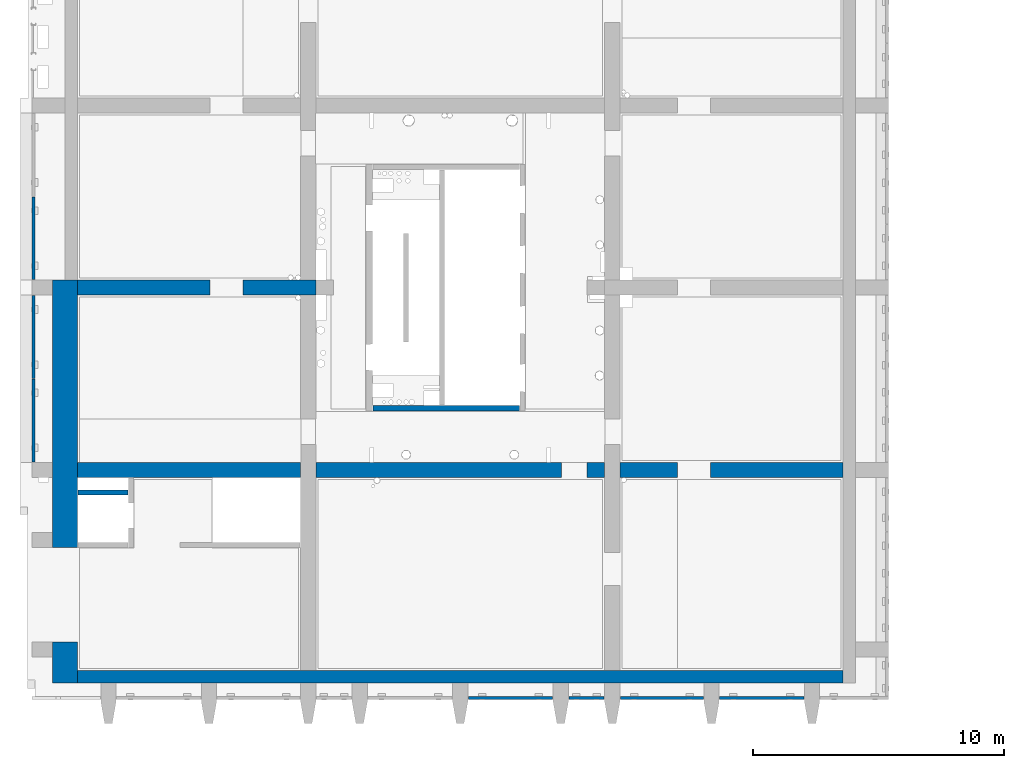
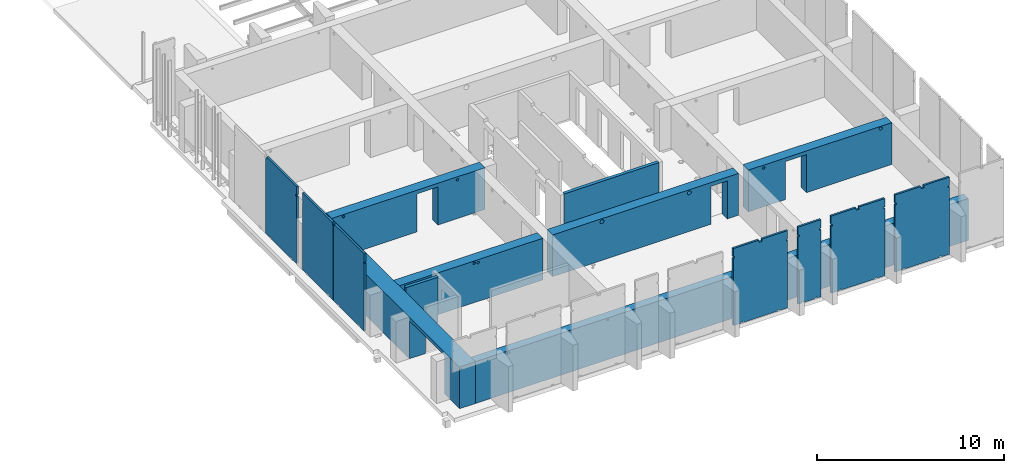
# One storey, part 26 of 31: 13 walls, 50 openings.
"""IFC2X3 building model written with IfcOpenShell, lengths in millimetres."""

from ifc_helpers import new_model, entity, si_unit, converted_unit, derived_unit, direction, frame, frame_2d, origin, origin_2d_with_axis, place, context, subcontext, project, spatial, rectangle, circle, extrude, material, layer, layer_set, layer_usage, type_object, element, save


model = new_model("IFC2X3")

# Units and contexts
model_context = context("Model", 3, precision=0.01, world=origin(), true_north=direction((6.12303176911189e-17, 1.0)))
body_context = subcontext(model_context, "Body", "Model", "MODEL_VIEW")
ifc_project = project(units=[si_unit("LENGTHUNIT", "METRE", prefix="MILLI"), si_unit("AREAUNIT", "SQUARE_METRE"), si_unit("VOLUMEUNIT", "CUBIC_METRE"), converted_unit("PLANEANGLEUNIT", "DEGREE", entity("IfcRatioMeasure", 0.0174532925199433), si_unit("PLANEANGLEUNIT", "RADIAN"), dimensions=[0, 0, 0, 0, 0, 0, 0]), si_unit("MASSUNIT", "GRAM", prefix="KILO"), derived_unit("MASSDENSITYUNIT", [(si_unit("MASSUNIT", "GRAM", prefix="KILO"), 1), (si_unit("LENGTHUNIT", "METRE"), -3)]), si_unit("TIMEUNIT", "SECOND"), si_unit("FREQUENCYUNIT", "HERTZ"), si_unit("THERMODYNAMICTEMPERATUREUNIT", "DEGREE_CELSIUS"), derived_unit("THERMALTRANSMITTANCEUNIT", [(si_unit("MASSUNIT", "GRAM", prefix="KILO"), 1), (si_unit("THERMODYNAMICTEMPERATUREUNIT", "KELVIN"), -1), (si_unit("TIMEUNIT", "SECOND"), -3)]), derived_unit("VOLUMETRICFLOWRATEUNIT", [(si_unit("LENGTHUNIT", "METRE"), 3), (si_unit("TIMEUNIT", "SECOND"), -1)]), si_unit("ELECTRICCURRENTUNIT", "AMPERE"), si_unit("ELECTRICVOLTAGEUNIT", "VOLT"), si_unit("POWERUNIT", "WATT"), si_unit("FORCEUNIT", "NEWTON", prefix="KILO"), si_unit("ILLUMINANCEUNIT", "LUX"), si_unit("LUMINOUSFLUXUNIT", "LUMEN"), si_unit("LUMINOUSINTENSITYUNIT", "CANDELA"), derived_unit("USERDEFINED", [(si_unit("MASSUNIT", "GRAM", prefix="KILO"), -1), (si_unit("LENGTHUNIT", "METRE"), -2), (si_unit("TIMEUNIT", "SECOND"), 3), (si_unit("LUMINOUSFLUXUNIT", "LUMEN"), 1)]), derived_unit("LINEARVELOCITYUNIT", [(si_unit("LENGTHUNIT", "METRE"), 1), (si_unit("TIMEUNIT", "SECOND"), -1)]), si_unit("PRESSUREUNIT", "PASCAL"), derived_unit("USERDEFINED", [(si_unit("LENGTHUNIT", "METRE"), -2), (si_unit("MASSUNIT", "GRAM", prefix="KILO"), 1), (si_unit("TIMEUNIT", "SECOND"), -2)])], contexts=[model_context])

# Site, building, storey
site_placement = place(None, origin())
site = spatial("IfcSite", under=ifc_project, at=site_placement, Name="Default", CompositionType="ELEMENT")
building_placement = place(site_placement, origin())
building = spatial("IfcBuilding", under=site, at=building_placement, Name="niet gebruiken", CompositionType="ELEMENT")
storey_placement = place(building_placement, frame((0.0, 0.0, 12000.0)))
storey = spatial("IfcBuildingStorey", under=building, at=storey_placement, Name="03 derde verdieping", CompositionType="ELEMENT", Elevation=12000.0)

# Wall, openings
ifc_material_1 = material(Name="NLRS_f2_beton ihwg")
ifc_layer_1 = layer(ifc_material_1, 600.0)
ifc_layer_set_1 = layer_set([ifc_layer_1], Name="Basic Wall:NLRS_22.21_WA_beton ihwg d=600_gen")
ifc_layer_usage_1 = layer_usage(ifc_layer_set_1, "AXIS2", "NEGATIVE", 300.0)
wall_type_1 = type_object("IfcWallType", Name="Basic Wall:NLRS_22.21_WA_beton ihwg d=600_gen", PredefinedType="STANDARD", material=ifc_layer_set_1)
wall_1_placement = place(storey_placement, frame((126520.0, 17500.0, -90.0)))
wall_1 = element("IfcWallStandardCase", 1, at=wall_1_placement, inside=storey, type_object=wall_type_1, material=ifc_layer_usage_1, Name="Basic Wall:NLRS_22.21_WA_beton ihwg d=600_gen", ObjectType="Basic Wall:NLRS_22.21_WA_beton ihwg d=600_gen", context=body_context, shape_type="SweptSolid", body=[
    extrude(rectangle(XDim=9479.99999999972, YDim=599.999999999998, at=frame_2d((4739.99999999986, -2.27373675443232e-13), x_axis=(-1.0, 0.0))), origin(), (0.0, 0.0, 1.0), 2729.99999999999),
])
opening_1_placement = place(wall_1_placement, origin())
element("IfcOpeningElement", 2, at=opening_1_placement, cuts=wall_1, Name="Basic Wall:NLRS_22.21_WA_beton ihwg d=600_gen", ObjectType="Opening", context=body_context, shape_type="SweptSolid", body=[
    extrude(rectangle(XDim=2490.0, YDim=1300.00000000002, at=frame_2d((0.0, -1.73372427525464e-11), x_axis=(1.0, 0.0))), frame((5930.0, -300.0, 1245.0), z_axis=(0.0, 1.0, 0.0), x_axis=(0.0, 0.0, -1.0)), (0.0, 0.0, 1.0), 600.000000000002),
])
opening_2_placement = place(wall_1_placement, origin())
element("IfcOpeningElement", 3, at=opening_2_placement, cuts=wall_1, Name="Basic Wall:NLRS_22.21_WA_beton ihwg d=600_gen", ObjectType="Opening", context=body_context, shape_type="SweptSolid", body=[
    extrude(circle(Radius=80.0, at=origin_2d_with_axis()), frame((7780.0, -300.0, 2540.0), z_axis=(0.0, 1.0, 0.0), x_axis=(1.0, 0.0, 0.0)), (0.0, 0.0, 1.0), 600.0),
])
opening_3_placement = place(wall_1_placement, origin())
element("IfcOpeningElement", 4, at=opening_3_placement, cuts=wall_1, Name="Basic Wall:NLRS_22.21_WA_beton ihwg d=600_gen", ObjectType="Opening", context=body_context, shape_type="SweptSolid", body=[
    extrude(circle(Radius=80.0, at=origin_2d_with_axis()), frame((735.0, -300.0, 2590.0), z_axis=(0.0, 1.0, 0.0), x_axis=(1.0, 0.0, 0.0)), (0.0, 0.0, 1.0), 600.0),
])

ifc_layer_usage_2 = layer_usage(ifc_layer_set_1, "AXIS2", "NEGATIVE", 300.0)
wall_2_placement = place(storey_placement, frame((126520.0, 10250.0, -90.0)))
wall_2 = element("IfcWallStandardCase", 5, at=wall_2_placement, inside=storey, type_object=wall_type_1, material=ifc_layer_usage_2, Name="Basic Wall:NLRS_22.21_WA_beton ihwg d=600_gen", ObjectType="Basic Wall:NLRS_22.21_WA_beton ihwg d=600_gen", context=body_context, shape_type="SweptSolid", body=[
    extrude(rectangle(XDim=30459.9999999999, YDim=600.000000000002, at=frame_2d((15230.0, 5.40012479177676e-13), x_axis=(-1.0, 0.0))), origin(), (0.0, 0.0, 1.0), 2729.99999999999),
])
opening_4_placement = place(storey_placement, frame((126520.0, 10250.0, -90.0)))
element("IfcOpeningElement", 6, at=opening_4_placement, cuts=wall_2, Name="Basic Wall:NLRS_22.21_WA_beton ihwg d=600_gen:1", ObjectType="Opening", context=body_context, shape_type="SweptSolid", body=[
    extrude(rectangle(XDim=2730.0, YDim=600.0, at=frame_2d((1.02318153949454e-12, 1.08002495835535e-12), x_axis=(1.0, 0.0))), frame((8880.0, 0.0, 1365.0), z_axis=(1.0, 0.0, 0.0), x_axis=(0.0, 0.0, -1.0)), (0.0, 0.0, 1.0), 600.000000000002),
])
opening_5_placement = place(storey_placement, frame((126520.0, 10250.0, -90.0)))
element("IfcOpeningElement", 7, at=opening_5_placement, cuts=wall_2, Name="Basic Wall:NLRS_22.21_WA_beton ihwg d=600_gen:2", ObjectType="Opening", context=body_context, shape_type="SweptSolid", body=[
    extrude(rectangle(XDim=2730.0, YDim=600.0, at=frame_2d((1.02318153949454e-12, -1.08002495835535e-12), x_axis=(1.0, 0.0))), frame((20980.0, 0.0, 1365.0), z_axis=(1.0, 0.0, 0.0), x_axis=(0.0, 0.0, -1.0)), (0.0, 0.0, 1.0), 600.000000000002),
])
opening_6_placement = place(wall_2_placement, origin())
element("IfcOpeningElement", 8, at=opening_6_placement, cuts=wall_2, Name="Basic Wall:NLRS_22.21_WA_beton ihwg d=600_gen", ObjectType="Opening", context=body_context, shape_type="SweptSolid", body=[
    extrude(rectangle(XDim=2490.0, YDim=1300.0, at=frame_2d((8.69704308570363e-12, 0.0), x_axis=(0.0, 1.0))), frame((24530.0, -300.0, 1245.0), z_axis=(0.0, 1.0, 0.0), x_axis=(1.0, 0.0, 0.0)), (0.0, 0.0, 1.0), 600.000000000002),
])
opening_7_placement = place(wall_2_placement, origin())
element("IfcOpeningElement", 9, at=opening_7_placement, cuts=wall_2, Name="Basic Wall:NLRS_22.21_WA_beton ihwg d=600_gen", ObjectType="Opening", context=body_context, shape_type="SweptSolid", body=[
    extrude(rectangle(XDim=2475.0, YDim=1015.99999999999, at=frame_2d((8.66862137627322e-12, 0.0), x_axis=(0.0, 1.0))), frame((19772.0, -300.0, 1237.5), z_axis=(0.0, 1.0, 0.0), x_axis=(1.0, 0.0, 0.0)), (0.0, 0.0, 1.0), 599.999999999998),
])
opening_8_placement = place(wall_2_placement, origin())
element("IfcOpeningElement", 10, at=opening_8_placement, cuts=wall_2, Name="Basic Wall:NLRS_22.21_WA_beton ihwg d=600_gen", ObjectType="Opening", context=body_context, shape_type="SweptSolid", body=[
    extrude(circle(Radius=80.0, at=origin_2d_with_axis()), frame((4630.0, -300.0, 2590.0), z_axis=(0.0, 1.0, 0.0), x_axis=(-1.0, 0.0, 0.0)), (0.0, 0.0, 1.0), 600.0),
])
opening_9_placement = place(wall_2_placement, origin())
element("IfcOpeningElement", 11, at=opening_9_placement, cuts=wall_2, Name="Basic Wall:NLRS_22.21_WA_beton ihwg d=600_gen", ObjectType="Opening", context=body_context, shape_type="SweptSolid", body=[
    extrude(circle(Radius=80.0, at=origin_2d_with_axis()), frame((4880.0, -300.0, 2540.0), z_axis=(0.0, 1.0, 0.0), x_axis=(-1.0, 0.0, 0.0)), (0.0, 0.0, 1.0), 600.0),
])
opening_10_placement = place(wall_2_placement, origin())
element("IfcOpeningElement", 12, at=opening_10_placement, cuts=wall_2, Name="Basic Wall:NLRS_22.21_WA_beton ihwg d=600_gen", ObjectType="Opening", context=body_context, shape_type="SweptSolid", body=[
    extrude(circle(Radius=125.0, at=origin_2d_with_axis()), frame((17929.9996159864, -300.0, 2529.99951249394), z_axis=(0.0, 1.0, 0.0), x_axis=(-1.0, 0.0, 0.0)), (0.0, 0.0, 1.0), 600.0),
])
opening_11_placement = place(wall_2_placement, origin())
element("IfcOpeningElement", 13, at=opening_11_placement, cuts=wall_2, Name="Basic Wall:NLRS_22.21_WA_beton ihwg d=600_gen", ObjectType="Opening", context=body_context, shape_type="SweptSolid", body=[
    extrude(circle(Radius=125.0, at=origin_2d_with_axis()), frame((12529.9996159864, -300.0, 2529.99951249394), z_axis=(0.0, 1.0, 0.0), x_axis=(-1.0, 0.0, 0.0)), (0.0, 0.0, 1.0), 600.0),
])
opening_12_placement = place(wall_2_placement, origin())
element("IfcOpeningElement", 14, at=opening_12_placement, cuts=wall_2, Name="Basic Wall:NLRS_22.21_WA_beton ihwg d=600_gen", ObjectType="Opening", context=body_context, shape_type="SweptSolid", body=[
    extrude(circle(Radius=80.0, at=origin_2d_with_axis()), frame((22530.0, -300.0, 2540.0), z_axis=(0.0, 1.0, 0.0), x_axis=(-1.0, 0.0, 0.0)), (0.0, 0.0, 1.0), 600.0),
])
opening_13_placement = place(wall_2_placement, origin())
element("IfcOpeningElement", 15, at=opening_13_placement, cuts=wall_2, Name="Basic Wall:NLRS_22.21_WA_beton ihwg d=600_gen", ObjectType="Opening", context=body_context, shape_type="SweptSolid", body=[
    extrude(circle(Radius=100.0, at=origin_2d_with_axis()), frame((29760.0, -300.0, 2590.0), z_axis=(0.0, 1.0, 0.0), x_axis=(-1.0, 0.0, 0.0)), (0.0, 0.0, 1.0), 600.0),
])

# Walls
ifc_material_2 = material(Name="NLRS_f2_beton prefab")
ifc_layer_2 = layer(ifc_material_2, 200.0)
ifc_layer_set_2 = layer_set([ifc_layer_2], Name="Basic Wall:NLRS_22.21_WA_beton prefab d=200_gen")
ifc_layer_usage_3 = layer_usage(ifc_layer_set_2, "AXIS2", "NEGATIVE", 100.0)
wall_type_2 = type_object("IfcWallType", Name="Basic Wall:NLRS_22.21_WA_beton prefab d=200_gen", PredefinedType="STANDARD", material=ifc_layer_set_2)
wall_3_placement = place(storey_placement, frame((138270.0, 12700.0, -50.0)))
element("IfcWallStandardCase", 16, at=wall_3_placement, inside=storey, type_object=wall_type_2, material=ifc_layer_usage_3, Name="Basic Wall:NLRS_22.21_WA_beton prefab d=200_gen", ObjectType="Basic Wall:NLRS_22.21_WA_beton prefab d=200_gen", context=body_context, shape_type="SweptSolid", body=[
    extrude(rectangle(XDim=5840.00000000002, YDim=199.999999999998, at=frame_2d((2920.00000000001, -6.82121026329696e-13), x_axis=(-1.0, 0.0))), origin(), (0.0, 0.0, 1.0), 2980.0),
])
ifc_layer_usage_4 = layer_usage(ifc_layer_set_2, "AXIS2", "NEGATIVE", 100.0)
wall_4_placement = place(storey_placement, frame((126540.0, 9350.0, -50.0)))
element("IfcWallStandardCase", 17, at=wall_4_placement, inside=storey, type_object=wall_type_2, material=ifc_layer_usage_4, Name="Basic Wall:NLRS_22.21_WA_beton prefab d=200_gen", ObjectType="Basic Wall:NLRS_22.21_WA_beton prefab d=200_gen", context=body_context, shape_type="SweptSolid", body=[
    extrude(rectangle(XDim=1980.0, YDim=200.0, at=frame_2d((990.0, -2.98427949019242e-13), x_axis=(-1.0, 0.0))), origin(), (0.0, 0.0, 1.0), 2980.0),
])

# Wall, openings
ifc_layer_3 = layer(ifc_material_1, 500.0)
ifc_layer_set_3 = layer_set([ifc_layer_3], Name="Basic Wall:NLRS_21.21_WA_beton ihwg d=500_gen")
ifc_layer_usage_5 = layer_usage(ifc_layer_set_3, "AXIS2", "NEGATIVE", 250.0)
wall_type_3 = type_object("IfcWallType", Name="Basic Wall:NLRS_21.21_WA_beton ihwg d=500_gen", PredefinedType="STANDARD", material=ifc_layer_set_3)
wall_5_placement = place(storey_placement, frame((156980.0, 2020.0, -90.0), z_axis=(0.0, 0.0, 1.0), x_axis=(-1.0, 0.0, 0.0)))
wall_5 = element("IfcWallStandardCase", 18, at=wall_5_placement, inside=storey, type_object=wall_type_3, material=ifc_layer_usage_5, Name="Basic Wall:NLRS_21.21_WA_beton ihwg d=500_gen", ObjectType="Basic Wall:NLRS_21.21_WA_beton ihwg d=500_gen", context=body_context, shape_type="SweptSolid", body=[
    extrude(rectangle(XDim=30460.0, YDim=500.0, at=frame_2d((15230.0, 1.4210854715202e-14), x_axis=(-1.0, 0.0))), origin(), (0.0, 0.0, 1.0), 2729.99999999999),
])
opening_14_placement = place(wall_5_placement, origin())
element("IfcOpeningElement", 19, at=opening_14_placement, cuts=wall_5, Name="Basic Wall:NLRS_21.21_WA_beton ihwg d=500_gen", ObjectType="Opening", context=body_context, shape_type="SweptSolid", body=[
    extrude(circle(Radius=80.0, at=origin_2d_with_axis()), frame((28415.0, -350.0, 2590.0), z_axis=(0.0, 1.0, 0.0), x_axis=(-1.0, 0.0, 0.0)), (0.0, 0.0, 1.0), 600.0),
])
opening_15_placement = place(wall_5_placement, origin())
element("IfcOpeningElement", 20, at=opening_15_placement, cuts=wall_5, Name="Basic Wall:NLRS_21.21_WA_beton ihwg d=500_gen", ObjectType="Opening", context=body_context, shape_type="SweptSolid", body=[
    extrude(circle(Radius=55.0, at=origin_2d_with_axis()), frame((22285.0, -350.0, 2615.0), z_axis=(0.0, 1.0, 0.0), x_axis=(-1.0, 0.0, 0.0)), (0.0, 0.0, 1.0), 600.0),
])
opening_16_placement = place(wall_5_placement, origin())
element("IfcOpeningElement", 21, at=opening_16_placement, cuts=wall_5, Name="Basic Wall:NLRS_21.21_WA_beton ihwg d=500_gen", ObjectType="Opening", context=body_context, shape_type="SweptSolid", body=[
    extrude(circle(Radius=55.0, at=origin_2d_with_axis()), frame((7830.0, -350.0, 2615.0), z_axis=(0.0, 1.0, 0.0), x_axis=(-1.0, 0.0, 0.0)), (0.0, 0.0, 1.0), 600.0),
])
opening_17_placement = place(wall_5_placement, origin())
element("IfcOpeningElement", 22, at=opening_17_placement, cuts=wall_5, Name="Basic Wall:NLRS_21.21_WA_beton ihwg d=500_gen", ObjectType="Opening", context=body_context, shape_type="SweptSolid", body=[
    extrude(circle(Radius=80.0, at=origin_2d_with_axis()), frame((2110.0, -350.0, 2590.0), z_axis=(0.0, 1.0, 0.0), x_axis=(-1.0, 0.0, 0.0)), (0.0, 0.0, 1.0), 600.0),
])

ifc_layer_4 = layer(ifc_material_1, 1000.0)
ifc_layer_set_4 = layer_set([ifc_layer_4], Name="Basic Wall:NLRS_21.21_WA_beton ihwg d=1000_gen")
ifc_layer_usage_6 = layer_usage(ifc_layer_set_4, "AXIS2", "NEGATIVE", 500.0)
wall_type_4 = type_object("IfcWallType", Name="Basic Wall:NLRS_21.21_WA_beton ihwg d=1000_gen", PredefinedType="STANDARD", material=ifc_layer_set_4)
wall_6_placement = place(storey_placement, frame((126020.0, 1770.0, -90.0), z_axis=(0.0, 0.0, 1.0), x_axis=(0.0, 1.0, 0.0)))
wall_6 = element("IfcWallStandardCase", 23, at=wall_6_placement, inside=storey, type_object=wall_type_4, material=ifc_layer_usage_6, Name="Basic Wall:NLRS_21.21_WA_beton ihwg d=1000_gen", ObjectType="Basic Wall:NLRS_21.21_WA_beton ihwg d=1000_gen", context=body_context, shape_type="SweptSolid", body=[
    extrude(rectangle(XDim=16030.0000000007, YDim=1000.00000000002, at=frame_2d((8015.00000000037, 4.57589521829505e-12), x_axis=(-1.0, 0.0))), origin(), (0.0, 0.0, 1.0), 2729.99999999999),
])
opening_18_placement = place(wall_6_placement, origin())
element("IfcOpeningElement", 24, at=opening_18_placement, cuts=wall_6, Name="Basic Wall:NLRS_21.21_WA_beton ihwg d=1000_gen", ObjectType="Opening", context=body_context, shape_type="SweptSolid", body=[
    extrude(rectangle(XDim=2490.0, YDim=3750.0, at=frame_2d((3.41060513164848e-13, -2.27373675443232e-12), x_axis=(0.0, 1.0))), frame((3505.0, -500.0, 1245.0), z_axis=(0.0, 1.0, 0.0), x_axis=(1.0, 0.0, 0.0)), (0.0, 0.0, 1.0), 1000.00000000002),
])
opening_19_placement = place(wall_6_placement, origin())
element("IfcOpeningElement", 25, at=opening_19_placement, cuts=wall_6, Name="Basic Wall:NLRS_21.21_WA_beton ihwg d=1000_gen", ObjectType="Recess", context=body_context, shape_type="SweptSolid", body=[
    extrude(circle(Radius=55.0, at=origin_2d_with_axis()), frame((9155.0, -500.0, 2590.0), z_axis=(0.0, 1.0, 0.0), x_axis=(1.0, 0.0, 0.0)), (0.0, 0.0, 1.0), 600.000000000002),
])

ifc_layer_5 = layer(ifc_material_2, 120.0)
ifc_layer_set_5 = layer_set([ifc_layer_5], Name="Basic Wall:NLRS_21.21_WA_beton prefab d=120_gen")
ifc_layer_usage_7 = layer_usage(ifc_layer_set_5, "AXIS2", "NEGATIVE", 60.0)
wall_type_5 = type_object("IfcWallType", Name="Basic Wall:NLRS_21.21_WA_beton prefab d=120_gen", PredefinedType="STANDARD", material=ifc_layer_set_5)
wall_7_placement = place(storey_placement, frame((145430.0, 1174.0, -60.0), z_axis=(0.0, 0.0, 1.0), x_axis=(-1.0, 0.0, 0.0)))
wall_7 = element("IfcWallStandardCase", 26, at=wall_7_placement, inside=storey, type_object=wall_type_5, material=ifc_layer_usage_7, Name="Basic Wall:NLRS_21.21_WA_beton prefab d=120_gen", ObjectType="Basic Wall:NLRS_21.21_WA_beton prefab d=120_gen", context=body_context, shape_type="SweptSolid", body=[
    extrude(rectangle(XDim=3360.0, YDim=120.0, at=frame_2d((1680.0, -4.61852778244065e-14), x_axis=(-1.0, 0.0))), origin(), (0.0, 0.0, 1.0), 5045.00000000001),
])
opening_20_placement = place(wall_7_placement, origin())
element("IfcOpeningElement", 27, at=opening_20_placement, cuts=wall_7, Name="Basic Wall:NLRS_21.21_WA_beton prefab d=120_gen", ObjectType="Opening", context=body_context, shape_type="SweptSolid", body=[
    extrude(rectangle(XDim=150.000000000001, YDim=190.000000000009, at=origin_2d_with_axis()), frame((1680.0, -79.0, 4970.0), z_axis=(0.0, 1.0, 0.0), x_axis=(0.0, 0.0, -1.0)), (0.0, 0.0, 1.0), 158.000000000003),
])
opening_21_placement = place(wall_7_placement, origin())
element("IfcOpeningElement", 28, at=opening_21_placement, cuts=wall_7, Name="Basic Wall:NLRS_21.21_WA_beton prefab d=120_gen", ObjectType="Opening", context=body_context, shape_type="SweptSolid", body=[
    extrude(rectangle(XDim=99.9999999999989, YDim=79.9999999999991, at=frame_2d((-2.16715534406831e-12, 0.0), x_axis=(1.0, 0.0))), frame((3320.0, -75.0, 4445.0), z_axis=(0.0, 1.0, 0.0), x_axis=(0.0, 0.0, -1.0)), (0.0, 0.0, 1.0), 150.000000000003),
])
opening_22_placement = place(wall_7_placement, origin())
element("IfcOpeningElement", 29, at=opening_22_placement, cuts=wall_7, Name="Basic Wall:NLRS_21.21_WA_beton prefab d=120_gen", ObjectType="Opening", context=body_context, shape_type="SweptSolid", body=[
    extrude(rectangle(XDim=99.9999999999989, YDim=80.0000000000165, at=frame_2d((-8.66506866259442e-12, 0.0), x_axis=(0.0, 1.0))), frame((40.0, -75.0, 4445.0), z_axis=(0.0, 1.0, 0.0), x_axis=(1.0, 0.0, 0.0)), (0.0, 0.0, 1.0), 150.000000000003),
])
opening_23_placement = place(wall_7_placement, origin())
element("IfcOpeningElement", 30, at=opening_23_placement, cuts=wall_7, Name="Basic Wall:NLRS_21.21_WA_beton prefab d=120_gen", ObjectType="Opening", context=body_context, shape_type="SweptSolid", body=[
    extrude(rectangle(XDim=79.9999999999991, YDim=100.000000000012, at=frame_2d((8.66506866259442e-12, 0.0), x_axis=(0.0, 1.0))), frame((2810.0, -75.0, 40.0), z_axis=(0.0, 1.0, 0.0), x_axis=(1.0, 0.0, 0.0)), (0.0, 0.0, 1.0), 150.000000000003),
])
opening_24_placement = place(wall_7_placement, origin())
element("IfcOpeningElement", 31, at=opening_24_placement, cuts=wall_7, Name="Basic Wall:NLRS_21.21_WA_beton prefab d=120_gen", ObjectType="Opening", context=body_context, shape_type="SweptSolid", body=[
    extrude(rectangle(XDim=79.9999999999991, YDim=99.9999999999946, at=origin_2d_with_axis()), frame((550.0, -75.0, 40.0), z_axis=(0.0, 1.0, 0.0), x_axis=(0.0, 0.0, -1.0)), (0.0, 0.0, 1.0), 150.000000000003),
])

ifc_layer_usage_8 = layer_usage(ifc_layer_set_5, "AXIS2", "NEGATIVE", 60.0)
wall_8_placement = place(storey_placement, frame((155430.0, 1174.0, -60.0), z_axis=(0.0, 0.0, 1.0), x_axis=(-1.0, 0.0, 0.0)))
wall_8 = element("IfcWallStandardCase", 32, at=wall_8_placement, inside=storey, type_object=wall_type_5, material=ifc_layer_usage_8, Name="Basic Wall:NLRS_21.21_WA_beton prefab d=120_gen", ObjectType="Basic Wall:NLRS_21.21_WA_beton prefab d=120_gen", context=body_context, shape_type="SweptSolid", body=[
    extrude(rectangle(XDim=3360.0, YDim=120.0, at=frame_2d((1680.0, -4.61852778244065e-14), x_axis=(-1.0, 0.0))), origin(), (0.0, 0.0, 1.0), 5045.00000000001),
])
opening_25_placement = place(wall_8_placement, origin())
element("IfcOpeningElement", 33, at=opening_25_placement, cuts=wall_8, Name="Basic Wall:NLRS_21.21_WA_beton prefab d=120_gen", ObjectType="Opening", context=body_context, shape_type="SweptSolid", body=[
    extrude(rectangle(XDim=150.000000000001, YDim=190.000000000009, at=frame_2d((0.0, -1.73301373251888e-11), x_axis=(1.0, 0.0))), frame((1680.0, -79.0, 4970.0), z_axis=(0.0, 1.0, 0.0), x_axis=(0.0, 0.0, -1.0)), (0.0, 0.0, 1.0), 158.000000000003),
])
opening_26_placement = place(wall_8_placement, origin())
element("IfcOpeningElement", 34, at=opening_26_placement, cuts=wall_8, Name="Basic Wall:NLRS_21.21_WA_beton prefab d=120_gen", ObjectType="Opening", context=body_context, shape_type="SweptSolid", body=[
    extrude(rectangle(XDim=99.9999999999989, YDim=79.9999999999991, at=frame_2d((-2.16715534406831e-12, 0.0), x_axis=(1.0, 0.0))), frame((3320.0, -75.0, 4445.0), z_axis=(0.0, 1.0, 0.0), x_axis=(0.0, 0.0, -1.0)), (0.0, 0.0, 1.0), 150.000000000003),
])
opening_27_placement = place(wall_8_placement, origin())
element("IfcOpeningElement", 35, at=opening_27_placement, cuts=wall_8, Name="Basic Wall:NLRS_21.21_WA_beton prefab d=120_gen", ObjectType="Opening", context=body_context, shape_type="SweptSolid", body=[
    extrude(rectangle(XDim=99.9999999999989, YDim=80.0000000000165, at=frame_2d((8.66506866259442e-12, 0.0), x_axis=(0.0, 1.0))), frame((40.0, -75.0, 4445.0), z_axis=(0.0, 1.0, 0.0), x_axis=(1.0, 0.0, 0.0)), (0.0, 0.0, 1.0), 150.000000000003),
])
opening_28_placement = place(wall_8_placement, origin())
element("IfcOpeningElement", 36, at=opening_28_placement, cuts=wall_8, Name="Basic Wall:NLRS_21.21_WA_beton prefab d=120_gen", ObjectType="Opening", context=body_context, shape_type="SweptSolid", body=[
    extrude(rectangle(XDim=79.9999999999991, YDim=100.000000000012, at=frame_2d((8.66506866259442e-12, 0.0), x_axis=(0.0, 1.0))), frame((2810.0, -75.0, 40.0), z_axis=(0.0, 1.0, 0.0), x_axis=(1.0, 0.0, 0.0)), (0.0, 0.0, 1.0), 150.000000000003),
])
opening_29_placement = place(wall_8_placement, origin())
element("IfcOpeningElement", 37, at=opening_29_placement, cuts=wall_8, Name="Basic Wall:NLRS_21.21_WA_beton prefab d=120_gen", ObjectType="Opening", context=body_context, shape_type="SweptSolid", body=[
    extrude(rectangle(XDim=79.9999999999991, YDim=99.9999999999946, at=origin_2d_with_axis()), frame((550.0, -75.0, 40.0), z_axis=(0.0, 1.0, 0.0), x_axis=(0.0, 0.0, -1.0)), (0.0, 0.0, 1.0), 150.000000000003),
])

ifc_layer_usage_9 = layer_usage(ifc_layer_set_5, "AXIS2", "NEGATIVE", 60.0)
wall_9_placement = place(storey_placement, frame((147480.0, 1174.0, -60.0), z_axis=(0.0, 0.0, 1.0), x_axis=(-1.0, 0.0, 0.0)))
wall_9 = element("IfcWallStandardCase", 38, at=wall_9_placement, inside=storey, type_object=wall_type_5, material=ifc_layer_usage_9, Name="Basic Wall:NLRS_21.21_WA_beton prefab d=120_gen", ObjectType="Basic Wall:NLRS_21.21_WA_beton prefab d=120_gen", context=body_context, shape_type="SweptSolid", body=[
    extrude(rectangle(XDim=1409.99999999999, YDim=120.0, at=frame_2d((704.999999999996, -4.9737991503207e-14), x_axis=(-1.0, 0.0))), origin(), (0.0, 0.0, 1.0), 5045.00000000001),
])
opening_30_placement = place(wall_9_placement, origin())
element("IfcOpeningElement", 39, at=opening_30_placement, cuts=wall_9, Name="Basic Wall:NLRS_21.21_WA_beton prefab d=120_gen", ObjectType="Opening", context=body_context, shape_type="SweptSolid", body=[
    extrude(rectangle(XDim=99.9999999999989, YDim=79.9999999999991, at=frame_2d((-2.16715534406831e-12, 1.732658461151e-11), x_axis=(1.0, 0.0))), frame((1370.0, -75.0, 4445.0), z_axis=(0.0, 1.0, 0.0), x_axis=(0.0, 0.0, -1.0)), (0.0, 0.0, 1.0), 150.000000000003),
])
opening_31_placement = place(wall_9_placement, origin())
element("IfcOpeningElement", 40, at=opening_31_placement, cuts=wall_9, Name="Basic Wall:NLRS_21.21_WA_beton prefab d=120_gen", ObjectType="Opening", context=body_context, shape_type="SweptSolid", body=[
    extrude(rectangle(XDim=79.9999999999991, YDim=100.000000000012, at=frame_2d((-8.66506866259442e-12, 0.0), x_axis=(0.0, 1.0))), frame((1110.0, -75.0, 40.0), z_axis=(0.0, 1.0, 0.0), x_axis=(1.0, 0.0, 0.0)), (0.0, 0.0, 1.0), 150.000000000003),
])
opening_32_placement = place(wall_9_placement, origin())
element("IfcOpeningElement", 41, at=opening_32_placement, cuts=wall_9, Name="Basic Wall:NLRS_21.21_WA_beton prefab d=120_gen", ObjectType="Opening", context=body_context, shape_type="SweptSolid", body=[
    extrude(rectangle(XDim=99.9999999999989, YDim=80.0000000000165, at=frame_2d((-8.66506866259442e-12, -2.16715534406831e-12), x_axis=(0.0, 1.0))), frame((40.0, -75.0, 4445.0), z_axis=(0.0, 1.0, 0.0), x_axis=(1.0, 0.0, 0.0)), (0.0, 0.0, 1.0), 150.000000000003),
])
opening_33_placement = place(wall_9_placement, origin())
element("IfcOpeningElement", 42, at=opening_33_placement, cuts=wall_9, Name="Basic Wall:NLRS_21.21_WA_beton prefab d=120_gen", ObjectType="Opening", context=body_context, shape_type="SweptSolid", body=[
    extrude(rectangle(XDim=79.9999999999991, YDim=99.9999999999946, at=origin_2d_with_axis()), frame((300.0, -75.0, 40.0), z_axis=(0.0, 1.0, 0.0), x_axis=(0.0, 0.0, -1.0)), (0.0, 0.0, 1.0), 150.000000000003),
])

ifc_layer_usage_10 = layer_usage(ifc_layer_set_5, "AXIS2", "POSITIVE", -60.0)
wall_10_placement = place(storey_placement, frame((148120.0, 1174.0, -60.0)))
wall_10 = element("IfcWallStandardCase", 43, at=wall_10_placement, inside=storey, type_object=wall_type_5, material=ifc_layer_usage_10, Name="Basic Wall:NLRS_21.21_WA_beton prefab d=120_gen", ObjectType="Basic Wall:NLRS_21.21_WA_beton prefab d=120_gen", context=body_context, shape_type="SweptSolid", body=[
    extrude(rectangle(XDim=3309.99999999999, YDim=120.0, at=frame_2d((1655.0, -7.105427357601e-15), x_axis=(-1.0, 0.0))), origin(), (0.0, 0.0, 1.0), 5045.00000000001),
])
opening_34_placement = place(wall_10_placement, origin())
element("IfcOpeningElement", 44, at=opening_34_placement, cuts=wall_10, Name="Basic Wall:NLRS_21.21_WA_beton prefab d=120_gen", ObjectType="Opening", context=body_context, shape_type="SweptSolid", body=[
    extrude(rectangle(XDim=150.000000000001, YDim=189.999999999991, at=frame_2d((0.0, 0.0), x_axis=(0.0, 1.0))), frame((1630.0, -79.0, 4970.0), z_axis=(0.0, 1.0, 0.0), x_axis=(1.0, 0.0, 0.0)), (0.0, 0.0, 1.0), 158.000000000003),
])
opening_35_placement = place(wall_10_placement, origin())
element("IfcOpeningElement", 45, at=opening_35_placement, cuts=wall_10, Name="Basic Wall:NLRS_21.21_WA_beton prefab d=120_gen", ObjectType="Opening", context=body_context, shape_type="SweptSolid", body=[
    extrude(rectangle(XDim=99.9999999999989, YDim=80.0000000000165, at=frame_2d((1.732658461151e-11, 0.0), x_axis=(0.0, 1.0))), frame((3270.0, -75.0, 4445.0), z_axis=(0.0, 1.0, 0.0), x_axis=(1.0, 0.0, 0.0)), (0.0, 0.0, 1.0), 150.000000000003),
])
opening_36_placement = place(wall_10_placement, origin())
element("IfcOpeningElement", 46, at=opening_36_placement, cuts=wall_10, Name="Basic Wall:NLRS_21.21_WA_beton prefab d=120_gen", ObjectType="Opening", context=body_context, shape_type="SweptSolid", body=[
    extrude(rectangle(XDim=79.9999999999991, YDim=99.9999999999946, at=frame_2d((0.0, 8.66506866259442e-12), x_axis=(1.0, 0.0))), frame((2760.0, -75.0, 40.0), z_axis=(0.0, 1.0, 0.0), x_axis=(0.0, 0.0, -1.0)), (0.0, 0.0, 1.0), 150.000000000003),
])
opening_37_placement = place(wall_10_placement, origin())
element("IfcOpeningElement", 47, at=opening_37_placement, cuts=wall_10, Name="Basic Wall:NLRS_21.21_WA_beton prefab d=120_gen", ObjectType="Opening", context=body_context, shape_type="SweptSolid", body=[
    extrude(rectangle(XDim=79.9999999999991, YDim=100.000000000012, at=frame_2d((0.0, 0.0), x_axis=(0.0, 1.0))), frame((550.0, -75.0, 40.0), z_axis=(0.0, 1.0, 0.0), x_axis=(1.0, 0.0, 0.0)), (0.0, 0.0, 1.0), 150.000000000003),
])
opening_38_placement = place(wall_10_placement, origin())
element("IfcOpeningElement", 48, at=opening_38_placement, cuts=wall_10, Name="Basic Wall:NLRS_21.21_WA_beton prefab d=120_gen", ObjectType="Opening", context=body_context, shape_type="SweptSolid", body=[
    extrude(rectangle(XDim=99.9999999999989, YDim=79.9999999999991, at=frame_2d((-2.16715534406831e-12, 8.66506866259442e-12), x_axis=(1.0, 0.0))), frame((40.0, -75.0, 4445.0), z_axis=(0.0, 1.0, 0.0), x_axis=(0.0, 0.0, -1.0)), (0.0, 0.0, 1.0), 150.000000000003),
])

ifc_layer_usage_11 = layer_usage(ifc_layer_set_5, "AXIS2", "NEGATIVE", 60.0)
wall_11_placement = place(storey_placement, frame((124760.0, 10570.0, -60.0), z_axis=(0.0, 0.0, 1.0), x_axis=(0.0, 1.0, 0.0)))
wall_11 = element("IfcWallStandardCase", 49, at=wall_11_placement, inside=storey, type_object=wall_type_5, material=ifc_layer_usage_11, Name="Basic Wall:NLRS_21.21_WA_beton prefab d=120_gen", ObjectType="Basic Wall:NLRS_21.21_WA_beton prefab d=120_gen", context=body_context, shape_type="SweptSolid", body=[
    extrude(rectangle(XDim=3295.00000000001, YDim=120.000000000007, at=frame_2d((1647.5, 0.0), x_axis=(-1.0, 0.0))), origin(), (0.0, 0.0, 1.0), 5045.00000000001),
])
opening_39_placement = place(wall_11_placement, origin())
element("IfcOpeningElement", 50, at=opening_39_placement, cuts=wall_11, Name="Basic Wall:NLRS_21.21_WA_beton prefab d=120_gen", ObjectType="Opening", context=body_context, shape_type="SweptSolid", body=[
    extrude(rectangle(XDim=79.9999999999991, YDim=100.000000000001, at=frame_2d((-1.08357767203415e-12, 0.0), x_axis=(0.0, 1.0))), frame((2745.0, -75.0, 40.0), z_axis=(0.0, 1.0, 0.0), x_axis=(1.0, 0.0, 0.0)), (0.0, 0.0, 1.0), 150.000000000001),
])
opening_40_placement = place(wall_11_placement, origin())
element("IfcOpeningElement", 51, at=opening_40_placement, cuts=wall_11, Name="Basic Wall:NLRS_21.21_WA_beton prefab d=120_gen", ObjectType="Opening", context=body_context, shape_type="SweptSolid", body=[
    extrude(rectangle(XDim=79.9999999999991, YDim=100.000000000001, at=frame_2d((0.0, 1.08357767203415e-12), x_axis=(1.0, 0.0))), frame((550.0, -75.0, 40.0), z_axis=(0.0, 1.0, 0.0), x_axis=(0.0, 0.0, -1.0)), (0.0, 0.0, 1.0), 150.000000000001),
])
opening_41_placement = place(wall_11_placement, origin())
element("IfcOpeningElement", 52, at=opening_41_placement, cuts=wall_11, Name="Basic Wall:NLRS_21.21_WA_beton prefab d=120_gen", ObjectType="Opening", context=body_context, shape_type="SweptSolid", body=[
    extrude(rectangle(XDim=99.9999999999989, YDim=80.0000000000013, at=frame_2d((-1.08357767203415e-12, 1.08357767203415e-12), x_axis=(0.0, 1.0))), frame((40.0, -75.0, 4445.0), z_axis=(0.0, 1.0, 0.0), x_axis=(1.0, 0.0, 0.0)), (0.0, 0.0, 1.0), 150.000000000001),
])
opening_42_placement = place(wall_11_placement, origin())
element("IfcOpeningElement", 53, at=opening_42_placement, cuts=wall_11, Name="Basic Wall:NLRS_21.21_WA_beton prefab d=120_gen", ObjectType="Opening", context=body_context, shape_type="SweptSolid", body=[
    extrude(rectangle(XDim=163.0, YDim=90.0000000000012, at=frame_2d((1.08713038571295e-12, 0.0), x_axis=(1.0, 0.0))), frame((3250.0, -75.0, 4963.4998855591), z_axis=(0.0, 1.0, 0.0), x_axis=(0.0, 0.0, -1.0)), (0.0, 0.0, 1.0), 150.000000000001),
])

ifc_layer_usage_12 = layer_usage(ifc_layer_set_5, "AXIS2", "POSITIVE", -60.0)
wall_12_placement = place(storey_placement, frame((124760.0, 17180.0, -60.0), z_axis=(0.0, 0.0, 1.0), x_axis=(0.0, -1.0, 0.0)))
wall_12 = element("IfcWallStandardCase", 54, at=wall_12_placement, inside=storey, type_object=wall_type_5, material=ifc_layer_usage_12, Name="Basic Wall:NLRS_21.21_WA_beton prefab d=120_gen", ObjectType="Basic Wall:NLRS_21.21_WA_beton prefab d=120_gen", context=body_context, shape_type="SweptSolid", body=[
    extrude(rectangle(XDim=3295.00000000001, YDim=120.000000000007, at=frame_2d((1647.5, 1.62359015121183e-12), x_axis=(-1.0, 0.0))), origin(), (0.0, 0.0, 1.0), 5045.00000000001),
])
opening_43_placement = place(wall_12_placement, origin())
element("IfcOpeningElement", 55, at=opening_43_placement, cuts=wall_12, Name="Basic Wall:NLRS_21.21_WA_beton prefab d=120_gen", ObjectType="Opening", context=body_context, shape_type="SweptSolid", body=[
    extrude(rectangle(XDim=79.9999999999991, YDim=100.000000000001, at=frame_2d((0.0, 1.08357767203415e-12), x_axis=(1.0, 0.0))), frame((2745.0, -75.0, 40.0), z_axis=(0.0, 1.0, 0.0), x_axis=(0.0, 0.0, -1.0)), (0.0, 0.0, 1.0), 150.000000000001),
])
opening_44_placement = place(wall_12_placement, origin())
element("IfcOpeningElement", 56, at=opening_44_placement, cuts=wall_12, Name="Basic Wall:NLRS_21.21_WA_beton prefab d=120_gen", ObjectType="Opening", context=body_context, shape_type="SweptSolid", body=[
    extrude(rectangle(XDim=79.9999999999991, YDim=100.000000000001, at=frame_2d((-1.08357767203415e-12, 0.0), x_axis=(0.0, 1.0))), frame((550.0, -75.0, 40.0), z_axis=(0.0, 1.0, 0.0), x_axis=(1.0, 0.0, 0.0)), (0.0, 0.0, 1.0), 150.000000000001),
])
opening_45_placement = place(wall_12_placement, origin())
element("IfcOpeningElement", 57, at=opening_45_placement, cuts=wall_12, Name="Basic Wall:NLRS_21.21_WA_beton prefab d=120_gen", ObjectType="Opening", context=body_context, shape_type="SweptSolid", body=[
    extrude(rectangle(XDim=100.000000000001, YDim=80.0000000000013, at=frame_2d((-2.16715534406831e-12, -1.08357767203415e-12), x_axis=(1.0, 0.0))), frame((40.0, -75.0, 4445.0), z_axis=(0.0, 1.0, 0.0), x_axis=(0.0, 0.0, -1.0)), (0.0, 0.0, 1.0), 150.000000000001),
])
opening_46_placement = place(wall_12_placement, origin())
element("IfcOpeningElement", 58, at=opening_46_placement, cuts=wall_12, Name="Basic Wall:NLRS_21.21_WA_beton prefab d=120_gen", ObjectType="Opening", context=body_context, shape_type="SweptSolid", body=[
    extrude(rectangle(XDim=163.0, YDim=90.0000000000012, at=frame_2d((0.0, -1.08713038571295e-12), x_axis=(0.0, 1.0))), frame((3250.0, -75.0, 4963.49988555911), z_axis=(0.0, 1.0, 0.0), x_axis=(1.0, 0.0, 0.0)), (0.0, 0.0, 1.0), 150.000000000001),
])

ifc_layer_usage_13 = layer_usage(ifc_layer_set_5, "AXIS2", "NEGATIVE", 60.0)
wall_13_placement = place(storey_placement, frame((124760.0, 17820.0, -60.0), z_axis=(0.0, 0.0, 1.0), x_axis=(0.0, 1.0, 0.0)))
wall_13 = element("IfcWallStandardCase", 59, at=wall_13_placement, inside=storey, type_object=wall_type_5, material=ifc_layer_usage_13, Name="Basic Wall:NLRS_21.21_WA_beton prefab d=120_gen", ObjectType="Basic Wall:NLRS_21.21_WA_beton prefab d=120_gen", context=body_context, shape_type="SweptSolid", body=[
    extrude(rectangle(XDim=3295.00000000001, YDim=120.000000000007, at=frame_2d((1647.5, 0.0), x_axis=(-1.0, 0.0))), origin(), (0.0, 0.0, 1.0), 5045.00000000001),
])
opening_47_placement = place(wall_13_placement, origin())
element("IfcOpeningElement", 60, at=opening_47_placement, cuts=wall_13, Name="Basic Wall:NLRS_21.21_WA_beton prefab d=120_gen", ObjectType="Opening", context=body_context, shape_type="SweptSolid", body=[
    extrude(rectangle(XDim=79.9999999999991, YDim=100.000000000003, at=frame_2d((0.0, 0.0), x_axis=(0.0, 1.0))), frame((2745.0, -75.0, 40.0), z_axis=(0.0, 1.0, 0.0), x_axis=(1.0, 0.0, 0.0)), (0.0, 0.0, 1.0), 150.000000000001),
])
opening_48_placement = place(wall_13_placement, origin())
element("IfcOpeningElement", 61, at=opening_48_placement, cuts=wall_13, Name="Basic Wall:NLRS_21.21_WA_beton prefab d=120_gen", ObjectType="Opening", context=body_context, shape_type="SweptSolid", body=[
    extrude(rectangle(XDim=79.9999999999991, YDim=100.000000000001, at=frame_2d((0.0, -1.08357767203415e-12), x_axis=(1.0, 0.0))), frame((550.0, -75.0, 40.0), z_axis=(0.0, 1.0, 0.0), x_axis=(0.0, 0.0, -1.0)), (0.0, 0.0, 1.0), 150.000000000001),
])
opening_49_placement = place(wall_13_placement, origin())
element("IfcOpeningElement", 62, at=opening_49_placement, cuts=wall_13, Name="Basic Wall:NLRS_21.21_WA_beton prefab d=120_gen", ObjectType="Opening", context=body_context, shape_type="SweptSolid", body=[
    extrude(rectangle(XDim=99.9999999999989, YDim=80.0000000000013, at=frame_2d((1.08357767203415e-12, 1.08357767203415e-12), x_axis=(0.0, 1.0))), frame((40.0, -75.0, 4445.0), z_axis=(0.0, 1.0, 0.0), x_axis=(1.0, 0.0, 0.0)), (0.0, 0.0, 1.0), 150.000000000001),
])
opening_50_placement = place(wall_13_placement, origin())
element("IfcOpeningElement", 63, at=opening_50_placement, cuts=wall_13, Name="Basic Wall:NLRS_21.21_WA_beton prefab d=120_gen", ObjectType="Opening", context=body_context, shape_type="SweptSolid", body=[
    extrude(rectangle(XDim=163.0, YDim=90.0000000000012, at=frame_2d((1.08713038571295e-12, -2.16715534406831e-12), x_axis=(1.0, 0.0))), frame((3250.0, -75.0, 4963.4998855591), z_axis=(0.0, 1.0, 0.0), x_axis=(0.0, 0.0, -1.0)), (0.0, 0.0, 1.0), 150.000000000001),
])

save(model, "model.ifc")
